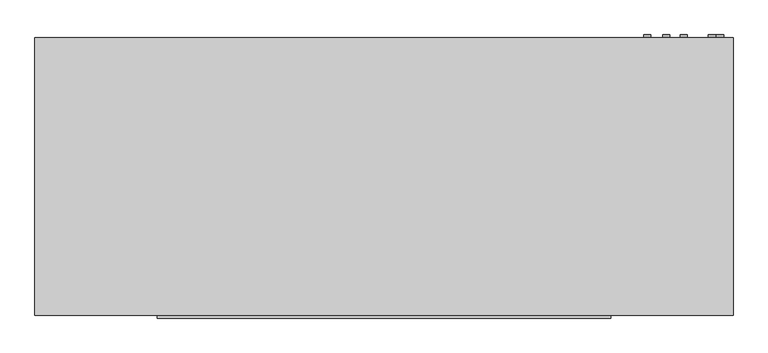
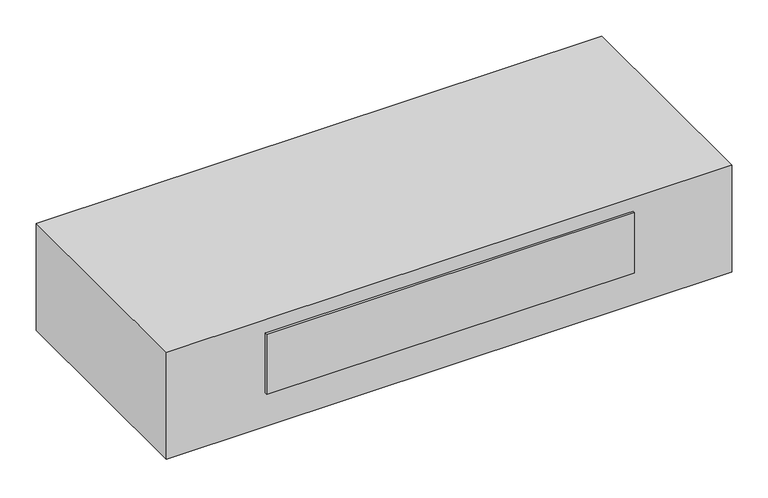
"""IFC4 building model written with IfcOpenShell, lengths in millimetres: proxy geometry, Exposed_Horizontal_Fan_Coil_Unit_-_42CGB_-_CARRIER_-_4-Pipe_FS-BR_RH_2022 : Size 08 - 277v/60Hz/1Ph - 4/1 Coil."""

import ifcopenshell
import ifcopenshell.guid

model = None  # the IFC model being written
_history = None  # IfcOwnerHistory: only IFC2X3 demands one
_inside = {}  # id of a spatial element -> (the spatial element, [elements in it])
_under = {}  # id of a project, library or spatial element -> (it, [spatial elements below it])
_declared = {}  # id of a project -> (the project, [libraries it declares])
_typed = {}  # id of a type object -> (the type object, [elements of that type])
_made_of = {}  # id of a material, layer set ... -> (it, [elements and type objects made of it])


def new_model(schema):
    """Start an empty IFC model of exactly this schema.

    Asked for "IFC4X3", IfcOpenShell would pick the latest addendum, in which some entities
    have other attributes; the version numbers below select the first issue.
    IFC2X3 requires an IfcOwnerHistory on every rooted entity: one is made here for all.
    """
    global model, _history
    if schema == "IFC4X3":
        model = ifcopenshell.file(schema_version=(4, 3, 0, 0))
    else:
        model = ifcopenshell.file(schema=schema)
    _inside.clear()
    _under.clear()
    _declared.clear()
    _typed.clear()
    _made_of.clear()
    _history = None
    if model.schema == "IFC2X3":
        org = make("IfcOrganization", Name="unknown")
        user = make(
            "IfcPersonAndOrganization",
            ThePerson=make("IfcPerson", FamilyName="unknown"),
            TheOrganization=org,
        )
        app = make(
            "IfcApplication",
            ApplicationDeveloper=org,
            Version="unknown",
            ApplicationFullName="unknown",
            ApplicationIdentifier="unknown",
        )
        _history = make(
            "IfcOwnerHistory",
            OwningUser=user,
            OwningApplication=app,
            ChangeAction="ADDED",
            CreationDate=0,
        )
    return model


def make(cls, **values):
    """One entity of the class cls with the attributes given. An attribute that is None is left unset."""
    return model.create_entity(
        cls, **{name: value for name, value in values.items() if value is not None}
    )


def rooted(cls, **values):
    """An entity with a GlobalId (a new one), such as an element, a storey or a relation."""
    return make(cls, GlobalId=ifcopenshell.guid.new(), OwnerHistory=_history, **values)


def si_unit(unit_type, name, prefix=None):
    """IfcSIUnit, for example si_unit("LENGTHUNIT", "METRE", prefix="MILLI")."""
    return make("IfcSIUnit", UnitType=unit_type, Prefix=prefix, Name=name)


def assignment(units):
    """IfcUnitAssignment: the units of a project."""
    return None if units is None else make("IfcUnitAssignment", Units=units)


def point(xyz):
    """IfcCartesianPoint."""
    return None if xyz is None else make("IfcCartesianPoint", Coordinates=xyz)


def direction(xyz):
    """IfcDirection."""
    return None if xyz is None else make("IfcDirection", DirectionRatios=xyz)


def frame(location, z_axis=None, x_axis=None):
    """IfcAxis2Placement3D, a coordinate frame: its origin and axes. An axis left out is left unset."""
    return make(
        "IfcAxis2Placement3D",
        Location=point(location),
        Axis=direction(z_axis),
        RefDirection=direction(x_axis),
    )


def frame_2d(location, x_axis=None):
    """IfcAxis2Placement2D, a coordinate frame in the plane: its origin and x axis."""
    return make(
        "IfcAxis2Placement2D", Location=point(location), RefDirection=direction(x_axis)
    )


def origin():
    """The frame at (0, 0, 0) with its axes left unset."""
    return frame((0.0, 0.0, 0.0))


def place(relative_to, where):
    """IfcLocalPlacement: puts the frame where relative to a parent placement (None: the world)."""
    return make(
        "IfcLocalPlacement", PlacementRelTo=relative_to, RelativePlacement=where
    )


def context(
    kind, dimensions, precision=None, world=None, true_north=None, identifier=None
):
    """IfcGeometricRepresentationContext, for example the 3D "Model" context."""
    return make(
        "IfcGeometricRepresentationContext",
        ContextIdentifier=identifier,
        ContextType=kind,
        CoordinateSpaceDimension=dimensions,
        Precision=precision,
        WorldCoordinateSystem=world,
        TrueNorth=true_north,
    )


def project(units=None, contexts=None):
    """IfcProject with its units and contexts."""
    return rooted(
        "IfcProject",
        Name="project",
        RepresentationContexts=contexts,
        UnitsInContext=assignment(units),
    )


def spatial(cls, under=None, at=None, **own):
    """A site, building, storey or space (cls), placed at a placement, below another one or the project."""
    s = rooted(cls, ObjectPlacement=at, **own)
    if under is not None:
        _under.setdefault(under.id(), (under, []))[1].append(s)
    return s


def polyline(points):
    """IfcPolyline through the points."""
    return make("IfcPolyline", Points=[point(p) for p in points])


def circle_curve(where, radius):
    """IfcCircle in the frame where."""
    return make("IfcCircle", Position=where, Radius=radius)


def trimmed(basis, trim1, trim2, sense, master):
    """IfcTrimmedCurve: the piece of a basis curve between two trims."""
    return make(
        "IfcTrimmedCurve",
        BasisCurve=basis,
        Trim1=trim1,
        Trim2=trim2,
        SenseAgreement=sense,
        MasterRepresentation=master,
    )


def segment(curve, same_sense, transition):
    """IfcCompositeCurveSegment."""
    return make(
        "IfcCompositeCurveSegment",
        Transition=transition,
        SameSense=same_sense,
        ParentCurve=curve,
    )


def composite_curve(segments, self_intersect=None):
    """IfcCompositeCurve: segments joined end to end."""
    return make("IfcCompositeCurve", Segments=segments, SelfIntersect=self_intersect)


def outline(outer, holes=None, kind="AREA"):
    """IfcArbitraryClosedProfileDef: a profile drawn as a closed curve; with holes, ...WithVoids."""
    if holes is None:
        return make("IfcArbitraryClosedProfileDef", ProfileType=kind, OuterCurve=outer)
    return make(
        "IfcArbitraryProfileDefWithVoids",
        ProfileType=kind,
        OuterCurve=outer,
        InnerCurves=holes,
    )


def extrude(swept, where, along, depth):
    """IfcExtrudedAreaSolid: the profile swept, set in the frame where, extruded along a direction by depth."""
    return make(
        "IfcExtrudedAreaSolid",
        SweptArea=swept,
        Position=where,
        ExtrudedDirection=direction(along),
        Depth=depth,
    )


def shape(context_of_items, identifier, shape_type, items):
    """IfcShapeRepresentation: the items that make up one representation, for example the "Body"."""
    return make(
        "IfcShapeRepresentation",
        ContextOfItems=context_of_items,
        RepresentationIdentifier=identifier,
        RepresentationType=shape_type,
        Items=items,
    )


def source(mapping_origin, context_of_items, identifier, shape_type, items):
    """IfcRepresentationMap: a shape defined once, which mapped items show again and again."""
    return make(
        "IfcRepresentationMap",
        MappingOrigin=mapping_origin,
        MappedRepresentation=shape(context_of_items, identifier, shape_type, items),
    )


def transform(
    local_origin,
    x_axis=None,
    y_axis=None,
    z_axis=None,
    scale=None,
    scale2=None,
    scale3=None,
    uniform=True,
):
    """IfcCartesianTransformationOperator3D, or its non-uniform kind. x_axis, y_axis, z_axis: its Axis1, 2, 3."""
    if uniform:
        return make(
            "IfcCartesianTransformationOperator3D",
            Axis1=direction(x_axis),
            Axis2=direction(y_axis),
            LocalOrigin=point(local_origin),
            Scale=scale,
            Axis3=direction(z_axis),
        )
    return make(
        "IfcCartesianTransformationOperator3DnonUniform",
        Axis1=direction(x_axis),
        Axis2=direction(y_axis),
        LocalOrigin=point(local_origin),
        Scale=scale,
        Axis3=direction(z_axis),
        Scale2=scale2,
        Scale3=scale3,
    )


def mapped(mapping_source, mapping_target):
    """IfcMappedItem: shows the shape of a source again, moved by a transform."""
    return make(
        "IfcMappedItem", MappingSource=mapping_source, MappingTarget=mapping_target
    )


def made_of(thing, what):
    """Note that an element or type object is made of a material, layer set ...; save() writes the relation."""
    if what is not None:
        _made_of.setdefault(what.id(), (what, []))[1].append(thing)
    return thing


def element(
    cls,
    number,
    at=None,
    inside=None,
    cuts=None,
    type_object=None,
    material=None,
    context=None,
    identifier="Body",
    shape_type=None,
    held_by="IfcProductDefinitionShape",
    body=None,
    shapes=None,
    **own,
):
    """One element of the class cls, such as IfcWall. Its Tag is "e" and its number.

    at: its placement. inside: the storey or other place that contains it. cuts: it is an
    opening in that element (IfcRelVoidsElement). A single representation is given by context,
    identifier, shape_type and body (its items); several are given by shapes. held_by: the class
    of the entity that holds the representations. save() writes the other relations.
    """
    e = rooted(cls, Tag="e%d" % number, ObjectPlacement=at, **own)
    if body is not None:
        shapes = [shape(context, identifier, shape_type, body)]
    if shapes is not None:
        e.Representation = make(held_by, Representations=shapes)
    if inside is not None:
        _inside.setdefault(inside.id(), (inside, []))[1].append(e)
    if cuts is not None:
        rooted(
            "IfcRelVoidsElement", RelatingBuildingElement=cuts, RelatedOpeningElement=e
        )
    if type_object is not None:
        _typed.setdefault(type_object.id(), (type_object, []))[1].append(e)
    return made_of(e, material)


def aggregate(whole, parts):
    """IfcRelAggregates: a whole, such as a stair, and the parts it consists of."""
    return rooted("IfcRelAggregates", RelatingObject=whole, RelatedObjects=parts)


def save(model, path):
    """Write the relations noted so far, then the file.

    IfcRelAggregates (storeys below a building ...), IfcRelContainedInSpatialStructure (elements
    in a storey), IfcRelDefinesByType, IfcRelAssociatesMaterial and IfcRelDeclares: one each for
    every whole, place, type object, material and project.
    """
    for whole, parts in _under.values():
        aggregate(whole, parts)
    for where, things in _inside.values():
        rooted(
            "IfcRelContainedInSpatialStructure",
            RelatedElements=things,
            RelatingStructure=where,
        )
    for kind, things in _typed.values():
        rooted("IfcRelDefinesByType", RelatedObjects=things, RelatingType=kind)
    for what, things in _made_of.values():
        rooted("IfcRelAssociatesMaterial", RelatedObjects=things, RelatingMaterial=what)
    for by, libraries in _declared.values():
        rooted("IfcRelDeclares", RelatingContext=by, RelatedDefinitions=libraries)
    model.write(path)


def mechanical_equipment_6c2658dc(model_context):
    return source(origin(), model_context, "Body", "SweptSolid", [
        extrude(outline(composite_curve([segment(trimmed(circle_curve(frame_2d((-85.725, 885.825)), 7.9375), [point((-85.725, 893.7625))], [point((-85.725, 877.8875))], False, "CARTESIAN"), True, "CONTINUOUS"), segment(trimmed(circle_curve(frame_2d((-85.725, 885.825)), 7.9375), [point((-85.725, 877.8875))], [point((-85.725, 893.7625))], False, "CARTESIAN"), True, "CONTINUOUS")], self_intersect=False)), frame((0.0, 65.0875, 0.0), z_axis=(0.0, 1.0, 0.0), x_axis=(0.0, 0.0, 1.0)), (0.0, 0.0, 1.0), 6.35),
        extrude(outline(composite_curve([segment(trimmed(circle_curve(frame_2d((-44.45, 806.45)), 7.9375), [point((-44.45, 814.3875))], [point((-44.45, 798.5125))], False, "CARTESIAN"), True, "CONTINUOUS"), segment(trimmed(circle_curve(frame_2d((-44.45, 806.45)), 7.9375), [point((-44.45, 798.5125))], [point((-44.45, 814.3875))], False, "CARTESIAN"), True, "CONTINUOUS")], self_intersect=False)), frame((0.0, 65.0875, 0.0), z_axis=(0.0, 1.0, 0.0), x_axis=(0.0, 0.0, 1.0)), (0.0, 0.0, 1.0), 6.35),
        extrude(outline(composite_curve([segment(trimmed(circle_curve(frame_2d((-95.25, 768.35)), 7.9375), [point((-95.25, 776.2875))], [point((-95.25, 760.4125))], False, "CARTESIAN"), True, "CONTINUOUS"), segment(trimmed(circle_curve(frame_2d((-95.25, 768.35)), 7.9375), [point((-95.25, 760.4125))], [point((-95.25, 776.2875))], False, "CARTESIAN"), True, "CONTINUOUS")], self_intersect=False)), frame((0.0, 65.0875, 0.0), z_axis=(0.0, 1.0, 0.0), x_axis=(0.0, 0.0, 1.0)), (0.0, 0.0, 1.0), 6.35),
        extrude(outline(composite_curve([segment(trimmed(circle_curve(frame_2d((-60.325, 727.075)), 7.9375), [point((-60.325, 735.0125))], [point((-60.325, 719.1375))], False, "CARTESIAN"), True, "CONTINUOUS"), segment(trimmed(circle_curve(frame_2d((-60.325, 727.075)), 7.9375), [point((-60.325, 719.1375))], [point((-60.325, 735.0125))], False, "CARTESIAN"), True, "CONTINUOUS")], self_intersect=False)), frame((0.0, 65.0875, 0.0), z_axis=(0.0, 1.0, 0.0), x_axis=(0.0, 0.0, 1.0)), (0.0, 0.0, 1.0), 6.35),
        extrude(outline(composite_curve([segment(trimmed(circle_curve(frame_2d((-260.35, 869.95)), 9.525), [point((-260.35, 879.475))], [point((-260.35, 860.425))], False, "CARTESIAN"), True, "CONTINUOUS"), segment(trimmed(circle_curve(frame_2d((-260.35, 869.95)), 9.525), [point((-260.35, 860.425))], [point((-260.35, 879.475))], False, "CARTESIAN"), True, "CONTINUOUS")], self_intersect=False)), frame((0.0, 65.0875, 0.0), z_axis=(0.0, 1.0, 0.0), x_axis=(0.0, 0.0, 1.0)), (0.0, 0.0, 1.0), 6.35),
        extrude(outline(polyline([(-609.6, 65.0875), (914.4, 65.0875), (914.4, -541.3375), (-609.6, -541.3375), (-609.6, 65.0875)])), frame((0.0, 0.0, -304.8), z_axis=(0.0, 0.0, 1.0), x_axis=(1.0, 0.0, 0.0)), (0.0, 0.0, 1.0), 304.8),
        extrude(outline(polyline([(647.7, -547.6875), (-342.9, -547.6875), (-342.9, -541.3375), (647.7, -541.3375), (647.7, -547.6875)])), frame((0.0, 0.0, -209.55), z_axis=(0.0, 0.0, 1.0), x_axis=(1.0, 0.0, 0.0)), (0.0, 0.0, 1.0), 171.45),
        extrude(outline(polyline([(673.1, -11.1125), (673.1, -265.1125), (-368.3, -265.1125), (-368.3, -11.1125), (673.1, -11.1125)])), frame((0.0, 0.0, -311.15), z_axis=(0.0, 0.0, 1.0), x_axis=(1.0, 0.0, 0.0)), (0.0, 0.0, 1.0), 6.35),
    ])


if __name__ == "__main__":
    model = new_model("IFC4")
    model_context = context("Model", 3, world=origin())
    ifc_project = project(units=[si_unit("LENGTHUNIT", "METRE", prefix="MILLI")], contexts=[model_context])
    site = spatial("IfcSite", under=ifc_project)
    building = spatial("IfcBuilding", under=site)
    placement = place(None, origin())
    mechanical_equipment_shape = mechanical_equipment_6c2658dc(model_context)
    element("IfcBuildingElementProxy", 1, Name="Exposed_Horizontal_Fan_Coil_Unit_-_42CGB_-_CARRIER_-_4-Pipe_FS-BR_RH_2022 : Size 08 - 277v/60Hz/1Ph - 4/1 Coil", ObjectType="Exposed_Horizontal_Fan_Coil_Unit_-_42CGB_-_CARRIER_-_4-Pipe_FS-BR_RH_2022 : Size 08 - 277v/60Hz/1Ph - 4/1 Coil", at=placement, inside=building, context=model_context, shape_type="MappedRepresentation", body=[
        mapped(mechanical_equipment_shape, transform((0.0, 0.0, 0.0), x_axis=(1.0, 0.0, 0.0), y_axis=(0.0, 1.0, 0.0), z_axis=(0.0, 0.0, 1.0))),
    ])
    save(model, "model.ifc")
